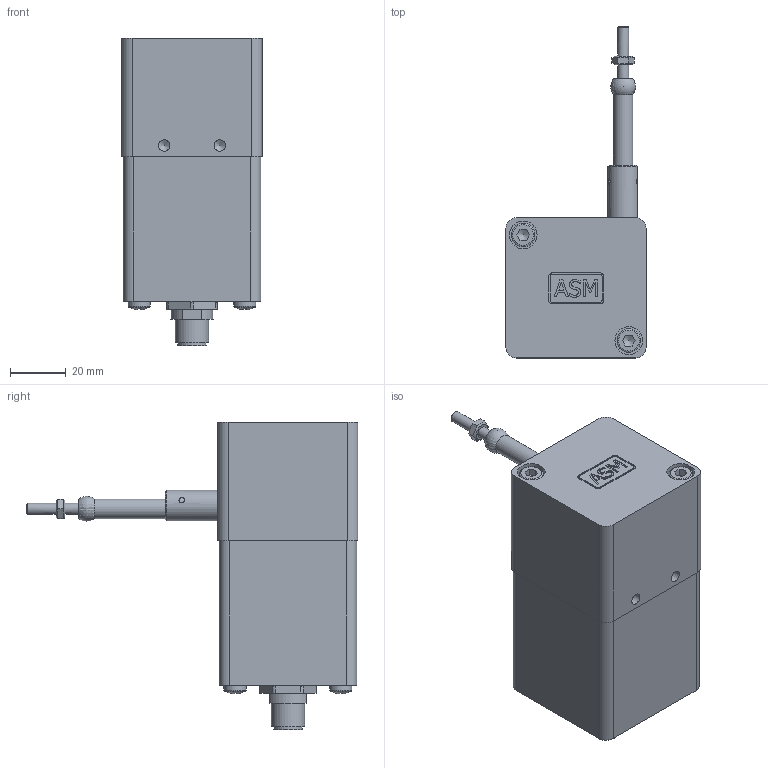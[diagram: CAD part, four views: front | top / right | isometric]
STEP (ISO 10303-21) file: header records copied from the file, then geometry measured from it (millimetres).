
FILE_DESCRIPTION(/* description */ (''),/* implementation_level */ '2;1');
FILE_NAME(/* name */ 'C:\Users\Kamp\Desktop\WS10ZG 500!1000!1250 M4.stp',/* time_stamp */ '2021-06-08T16:45:09+02:00',/* author */ ('kamp'),/* organization */ (''),/* preprocessor_version */ 'ST-DEVELOPER v15.6',/* originating_system */ 'Autodesk Inventor 2015',/* authorisation */ '');
FILE_SCHEMA (('CONFIG_CONTROL_DESIGN'));
Length unit declared in the file: centimetre
Products named in the file (1): WS10ZG 500!1000!1250 M4
Bounding box: 50.35 x 119.35 x 110.4 mm (x, y, z)
Volume: 238728.4 mm3; surface area: 27442.6 mm2
Topology: 1 solids, 1 shells, 252 faces, 669 edges, 442 vertices
Faces by surface type: plane 146, cylinder 56, bspline 28, cone 12, sphere 6, torus 4
Full cylindrical faces by diameter (mm): 1 x5, 2 x2, 4 x2, 4.134 x4, 7 x1, 8 x2, 8.3 x1, 8.5 x2, 10 x2, 10.4 x1, 12 x1
Entity records: 7985 total; most frequent: CARTESIAN_POINT 2029, ORIENTED_EDGE 1188, DIRECTION 1068, EDGE_CURVE 594, VERTEX_POINT 411, AXIS2_PLACEMENT_3D 364, LINE 340, VECTOR 340
